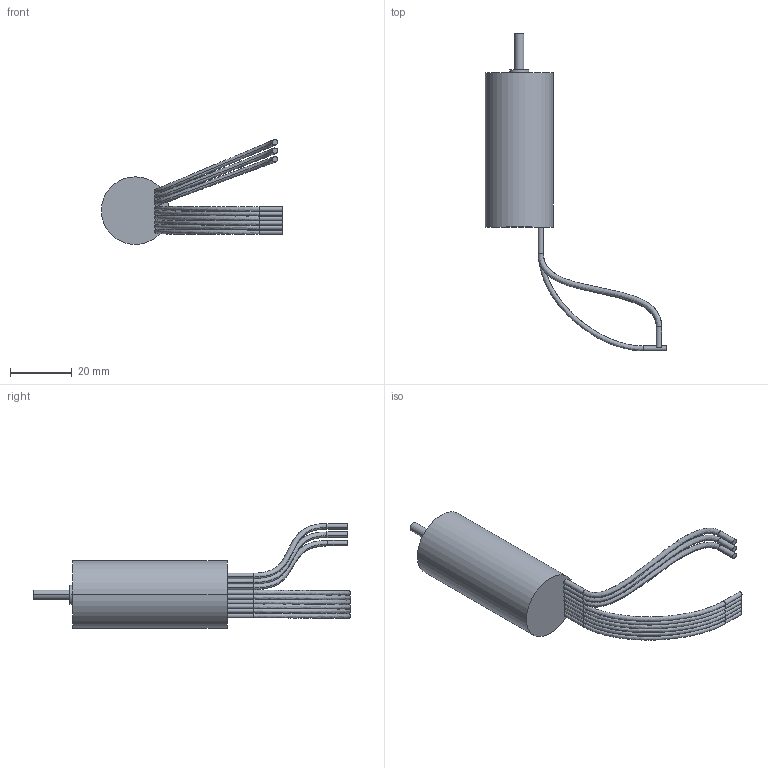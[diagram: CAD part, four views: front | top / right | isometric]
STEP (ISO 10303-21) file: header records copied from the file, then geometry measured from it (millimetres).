
FILE_DESCRIPTION((''),'2;1');
FILE_NAME('DJ_2_1','2026-09-24T15:43:08',('pc'),(''),'CREO PARAMETRIC BY PTC INC, 2018050','CREO PARAMETRIC BY PTC INC, 2018050','');
FILE_SCHEMA(('CONFIG_CONTROL_DESIGN','GEOMETRIC_VALIDATION_PROPERTIES_MIM'));
Length unit declared in the file: millimetre
Products named in the file (1): DJ_2_1
Bounding box: 58.8 x 103.05 x 34.07 mm (x, y, z)
Volume: 20287.2 mm3; surface area: 7113.3 mm2
Topology: 1 solids, 1 shells, 92 faces, 218 edges, 132 vertices
Faces by surface type: cylinder 46, bspline 26, extrusion 12, plane 8
Entity records: 5206 total; most frequent: CARTESIAN_POINT 3012, ORIENTED_EDGE 436, DIRECTION 380, EDGE_CURVE 218, AXIS2_PLACEMENT_3D 155, VERTEX_POINT 132, COLOUR_RGB 107, CIRCLE 101
